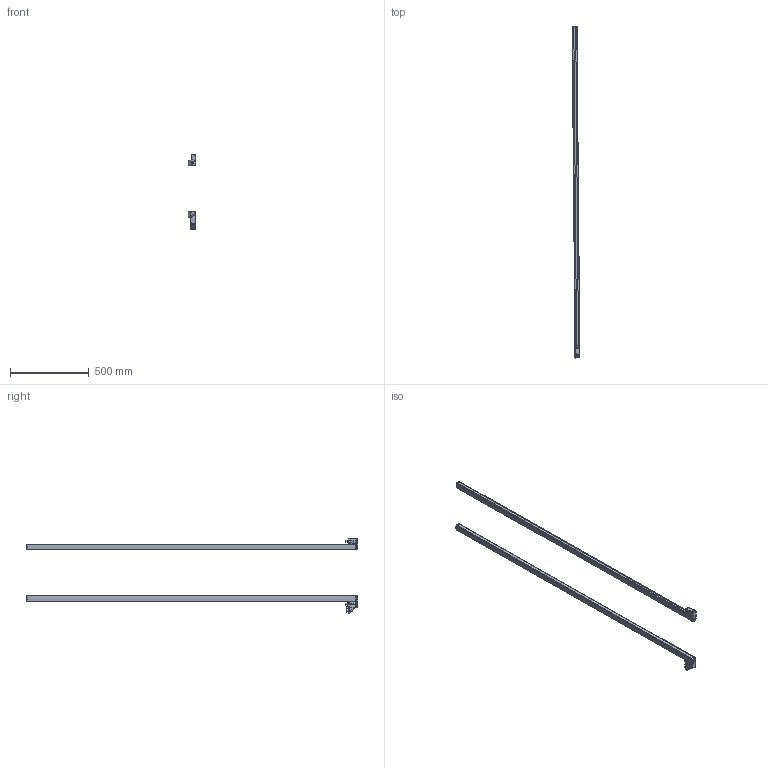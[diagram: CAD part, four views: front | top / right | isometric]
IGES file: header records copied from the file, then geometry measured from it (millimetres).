
Global section: file name: E:\lem\3DCAD_CML700i_2080_Profinet_R.igs; native system: NX V8.5; preprocessor: SIEMENS PLM Software NX 8.5; date: 20170928.094145; units: millimetre
Bounding box: 49.45 x 2101.29 x 474.04 mm (x, y, z)
Surface area: 698406.9 mm2 (no closed solid volume)
Topology: 0 solids, 0 shells, 2797 faces, 16686 edges, 16500 vertices
Faces by surface type: bspline 2797
